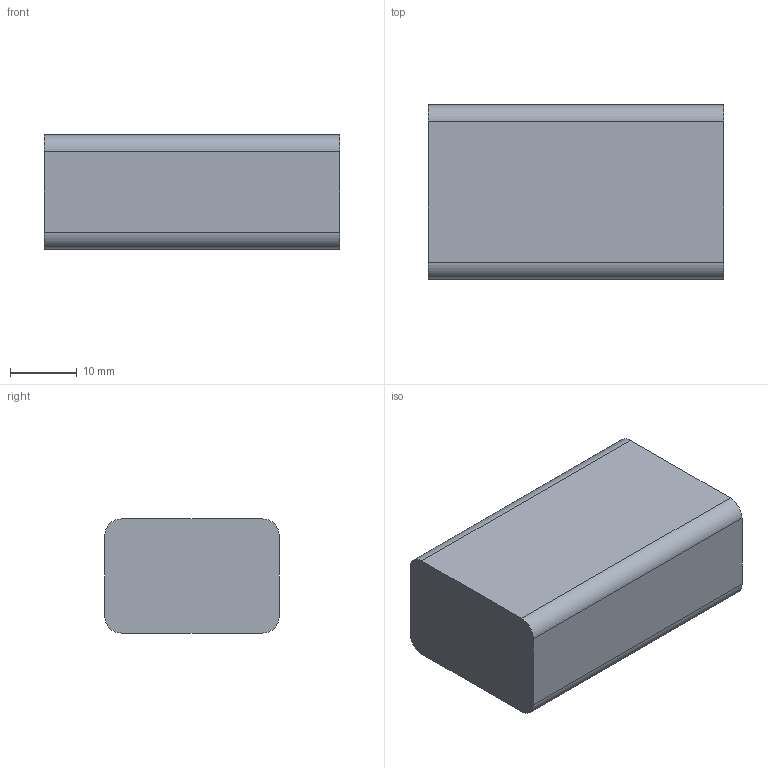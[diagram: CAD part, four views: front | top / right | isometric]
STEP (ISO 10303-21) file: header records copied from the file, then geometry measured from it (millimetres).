
FILE_DESCRIPTION(/* description */ ('STEP AP242 Edition 2','CAx-IF Rec.Pracs.---Representation and Presentation of Product Manufacturing Information (PMI)---4.0---2014-10-13','CAx-IF Rec.Pracs.---3D Tessellated Geometry---0.4---2014-09-14','2;1','CAx-IF Rec.Pracs.---User Defined Attributes---1.5---2016-08-15'),/* implementation_level */ '2;1');
FILE_NAME(/* name */ 'Assembly 1 - 9V_Battery (2)',/* time_stamp */ '2026-04-02T09:55:06Z',/* author */ (''),/* organization */ (''),/* preprocessor_version */ 'ST-DEVELOPER v20',/* originating_system */ 'ONSHAPE BY PTC INC, 1.212',/* authorisation */ ' ');
FILE_SCHEMA (('AP242_MANAGED_MODEL_BASED_3D_ENGINEERING_MIM_LF { 1 0 10303 442 3 1 4 }'));
Length unit declared in the file: metre
Products named in the file (1): 9V_Battery
Bounding box: 44.2 x 26.1 x 17.1 mm (x, y, z)
Volume: 19489.8 mm3; surface area: 4511.1 mm2
Topology: 1 solids, 1 shells, 10 faces, 24 edges, 16 vertices
Faces by surface type: plane 6, cylinder 4
Entity records: 318 total; most frequent: DIRECTION 54, CARTESIAN_POINT 51, ORIENTED_EDGE 48, EDGE_CURVE 24, AXIS2_PLACEMENT_3D 19, VERTEX_POINT 16, LINE 16, VECTOR 16
